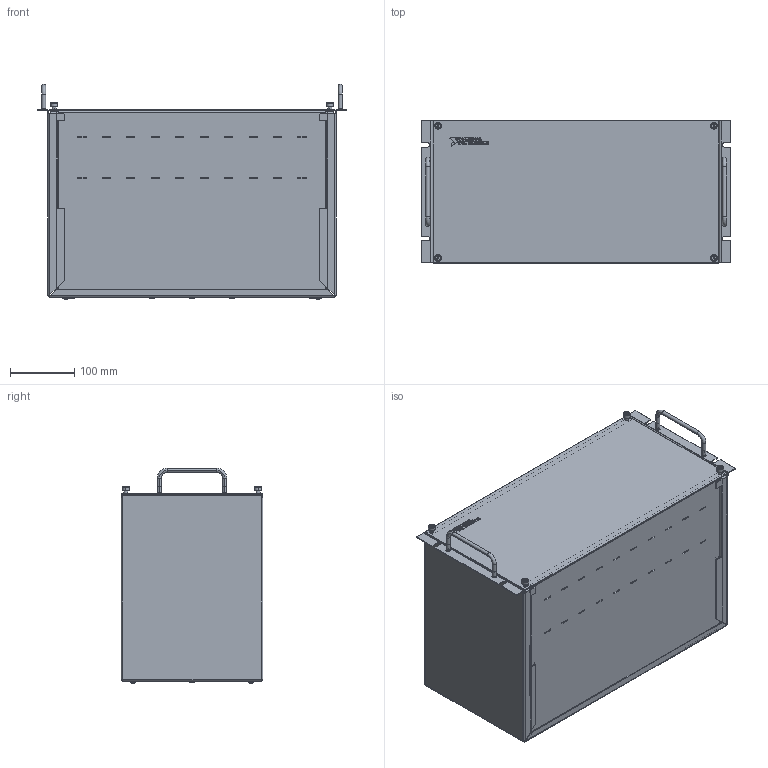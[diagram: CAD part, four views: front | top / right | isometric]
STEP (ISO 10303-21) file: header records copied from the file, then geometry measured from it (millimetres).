
FILE_DESCRIPTION((''),'2;1');
FILE_NAME('CU_MODEL_SW0001','2018-06-15T',('jbuhisan'),(''),'CREO PARAMETRIC BY PTC INC, 2017480','CREO PARAMETRIC BY PTC INC, 2017480','');
FILE_SCHEMA(('AUTOMOTIVE_DESIGN { 1 0 10303 214 1 1 1 1 }'));
Products named in the file (1): CU_MODEL_SW0001
Bounding box: 482.6 x 221.23 x 335.65 mm (x, y, z)
Volume: 946022.8 mm3; surface area: 1234255.6 mm2
Topology: 3 solids, 3 shells, 2430 faces, 6143 edges, 3770 vertices
Faces by surface type: plane 1535, cylinder 536, bspline 212, extrusion 71, torus 40, cone 32, sphere 4
Entity records: 109074 total; most frequent: CARTESIAN_POINT 39234, ORIENTED_EDGE 12286, DIRECTION 10787, EDGE_CURVE 6143, VECTOR 4229, LINE 4158, VERTEX_POINT 3770, AXIS2_PLACEMENT_3D 3279
